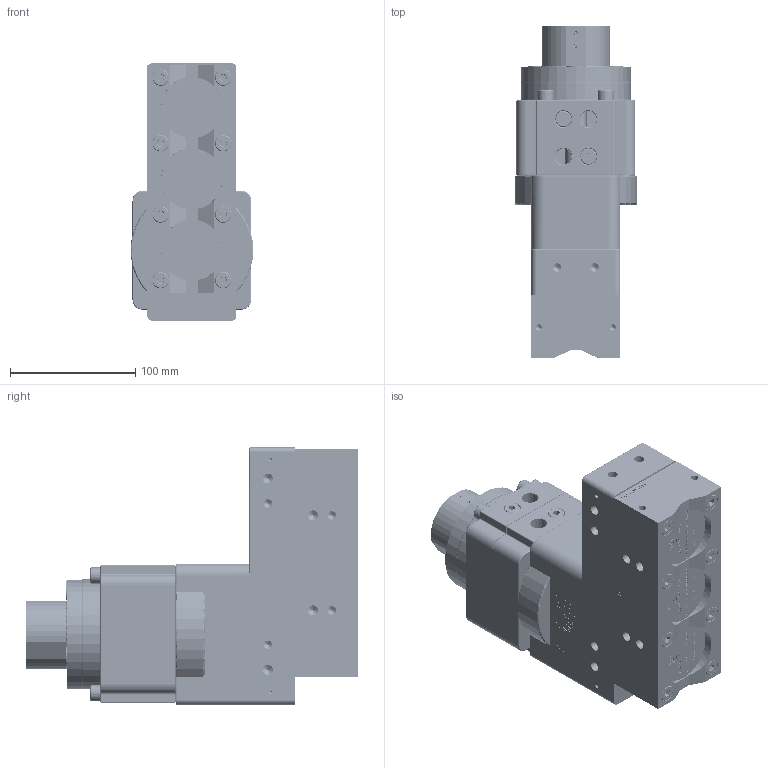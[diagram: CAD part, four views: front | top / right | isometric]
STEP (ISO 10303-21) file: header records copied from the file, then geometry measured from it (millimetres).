
FILE_DESCRIPTION (( 'STEP AP214' ), '1' );
FILE_NAME ('81401521_CFM_S.STEP', '2024-03-15T22:11:24', ( '' ), ( '' ), 'SwSTEP 2.0', 'SolidWorks 2022', '' );
FILE_SCHEMA (( 'AUTOMOTIVE_DESIGN' ));
Length unit declared in the file: millimetre
Products named in the file (17): 3209937; 3002228; 280018; 7010412(Ä¬ÈÏ-_flexible1); 300936; 320032; 240712; 7000660; 81401521_CFM_S; 180374; 7050187; CDRB1BW80-270S-R73_CRB-Rod; 180392; 180789; 180716; CDRB1BW80-270S-R73_CRB-Body; 180788
Assembly tree (35 placements, depth 3):
  81401521_CFM_S
    7010412(Ä¬ÈÏ-_flexible1)
      3002228
    280018
      CDRB1BW80-270S-R73_CRB-Body
      CDRB1BW80-270S-R73_CRB-Rod
    7000660
      240712
      320032  x3
      3209937  x2
      180374  x8
    180716  x4
    180392  x2
    7050187
      300936
      180789  x4
      180788  x3
Bounding box: 98.07 x 265.32 x 205.91 mm (x, y, z)
Volume: 2323355.9 mm3; surface area: 354191.8 mm2
Topology: 31 solids, 31 shells, 5829 faces, 15328 edges, 9950 vertices
Faces by surface type: plane 2338, bspline 1657, cylinder 1353, cone 400, torus 73, sphere 8
Entity records: 131891 total; most frequent: CARTESIAN_POINT 64163, ORIENTED_EDGE 15352, DIRECTION 11004, EDGE_CURVE 7676, VERTEX_POINT 5020, LINE 4350, VECTOR 4350, EDGE_LOOP 3356
